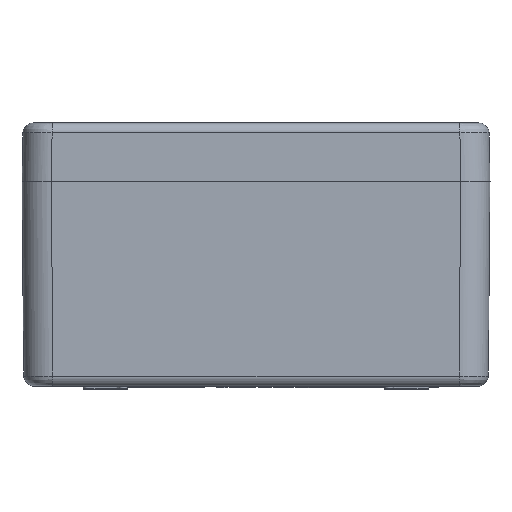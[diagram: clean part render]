
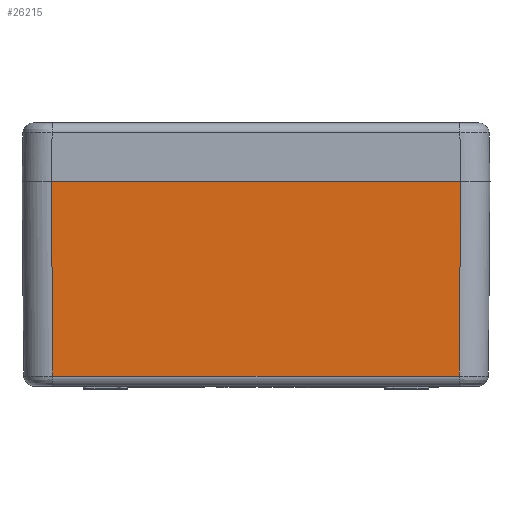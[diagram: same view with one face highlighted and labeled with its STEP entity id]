
A CAD part, left-side view. The second image highlights one B-rep face of the part: STEP entity #26215.
In plain terms, the highlighted planar face has unit normal (-1, 0, -0.009).
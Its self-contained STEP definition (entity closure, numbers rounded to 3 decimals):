
#380 = ORIENTED_EDGE ( 'NONE', *, *, #7884, .T. ) ;
#1446 = DIRECTION ( 'NONE',  ( -0.009, 0., 1. ) ) ;
#2334 = VERTEX_POINT ( 'NONE', #29651 ) ;
#2890 = CARTESIAN_POINT ( 'NONE',  ( -129.989, 69.989, -1.309 ) ) ;
#4033 = DIRECTION ( 'NONE',  ( -1., 0., -0.009 ) ) ;
#4061 = ORIENTED_EDGE ( 'NONE', *, *, #9698, .F. ) ;
#4859 = EDGE_CURVE ( 'NONE', #2334, #16626, #29856, .T. ) ;
#7195 = EDGE_CURVE ( 'NONE', #7672, #16626, #19001, .T. ) ;
#7672 = VERTEX_POINT ( 'NONE', #19469 ) ;
#7686 = VECTOR ( 'NONE', #30028, 1000. ) ;
#7884 = EDGE_CURVE ( 'NONE', #18101, #7672, #13766, .T. ) ;
#8270 = ORIENTED_EDGE ( 'NONE', *, *, #4859, .F. ) ;
#9698 = EDGE_CURVE ( 'NONE', #18101, #2334, #32903, .T. ) ;
#11366 = PLANE ( 'NONE',  #20411 ) ;
#12018 = CARTESIAN_POINT ( 'NONE',  ( -129.419, 80., -66.531 ) ) ;
#12594 = VECTOR ( 'NONE', #18295, 1000. ) ;
#13766 = LINE ( 'NONE', #18630, #30583 ) ;
#16626 = VERTEX_POINT ( 'NONE', #26599 ) ;
#16730 = CARTESIAN_POINT ( 'NONE',  ( -130., -80., 0. ) ) ;
#17821 = ORIENTED_EDGE ( 'NONE', *, *, #7195, .T. ) ;
#18101 = VERTEX_POINT ( 'NONE', #20565 ) ;
#18295 = DIRECTION ( 'NONE',  ( 0., 1., 0. ) ) ;
#18630 = CARTESIAN_POINT ( 'NONE',  ( -129.419, -69.42, -66.531 ) ) ;
#19001 = LINE ( 'NONE', #26089, #12594 ) ;
#19464 = VECTOR ( 'NONE', #21159, 1000. ) ;
#19469 = CARTESIAN_POINT ( 'NONE',  ( -130., -70., 0. ) ) ;
#20411 = AXIS2_PLACEMENT_3D ( 'NONE', #16730, #4033, #1446 ) ;
#20565 = CARTESIAN_POINT ( 'NONE',  ( -129.419, -69.42, -66.531 ) ) ;
#21159 = DIRECTION ( 'NONE',  ( -0.009, 0.009, 1. ) ) ;
#21971 = EDGE_LOOP ( 'NONE', ( #380, #17821, #8270, #4061 ) ) ;
#23777 = DIRECTION ( 'NONE',  ( -0.009, -0.009, 1. ) ) ;
#26089 = CARTESIAN_POINT ( 'NONE',  ( -130., -80., 0. ) ) ;
#26215 = ADVANCED_FACE ( 'NONE', ( #27012 ), #11366, .T. ) ;
#26599 = CARTESIAN_POINT ( 'NONE',  ( -130., 70., 0. ) ) ;
#27012 = FACE_OUTER_BOUND ( 'NONE', #21971, .T. ) ;
#29651 = CARTESIAN_POINT ( 'NONE',  ( -129.419, 69.42, -66.531 ) ) ;
#29856 = LINE ( 'NONE', #2890, #19464 ) ;
#30028 = DIRECTION ( 'NONE',  ( 0., 1., 0. ) ) ;
#30583 = VECTOR ( 'NONE', #23777, 1000. ) ;
#32903 = LINE ( 'NONE', #12018, #7686 ) ;
